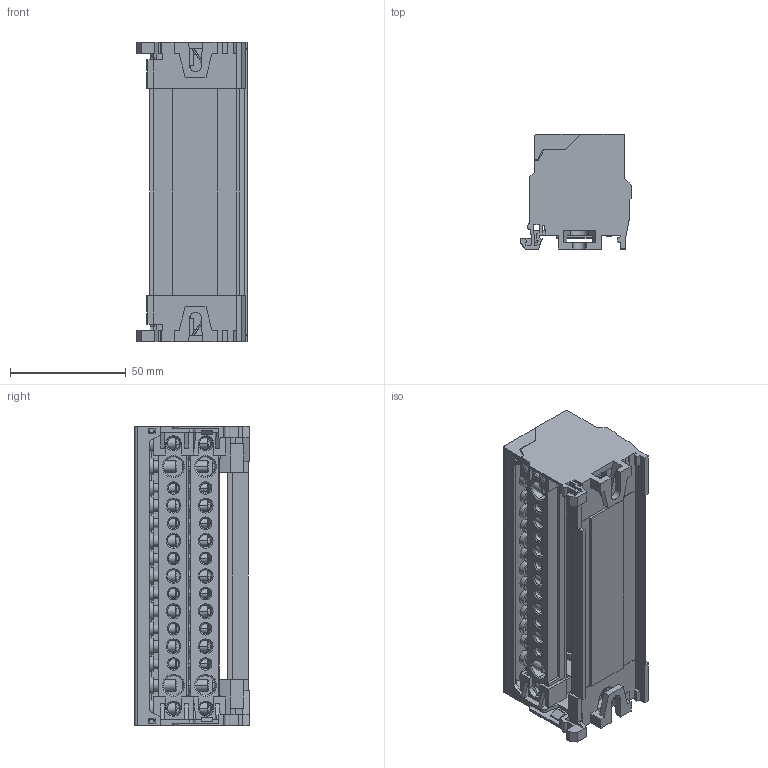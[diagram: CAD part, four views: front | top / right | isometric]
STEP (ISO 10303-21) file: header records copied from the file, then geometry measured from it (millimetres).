
FILE_DESCRIPTION (( 'STEP AP214' ), '1' );
FILE_NAME ('BDB215.STEP', '2018-02-22T14:35:54', ( '' ), ( '' ), 'SwSTEP 2.0', 'SolidWorks 2017', '' );
FILE_SCHEMA (( 'AUTOMOTIVE_DESIGN' ));
Length unit declared in the file: millimetre
Products named in the file (1): BDB215
Bounding box: 47.8 x 49.5 x 129.5 mm (x, y, z)
Volume: 65468.2 mm3; surface area: 80475.2 mm2
Topology: 38 solids, 38 shells, 1717 faces, 4540 edges, 2928 vertices
Faces by surface type: plane 1138, cylinder 302, cone 240, bspline 37
Entity records: 69500 total; most frequent: CARTESIAN_POINT 13063, ORIENTED_EDGE 9080, DIRECTION 8664, EDGE_CURVE 4540, LINE 3494, VECTOR 3494, VERTEX_POINT 2928, AXIS2_PLACEMENT_3D 2585
